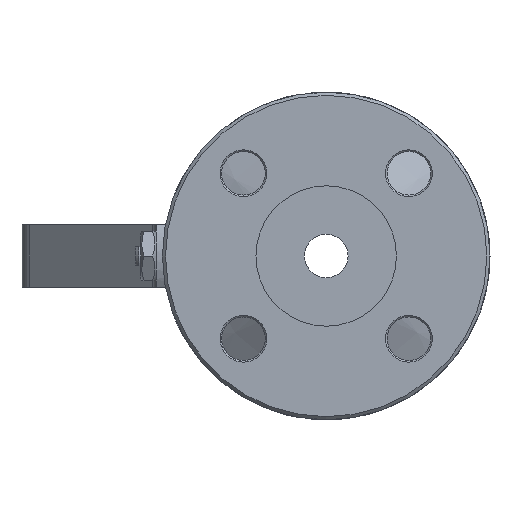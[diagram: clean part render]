
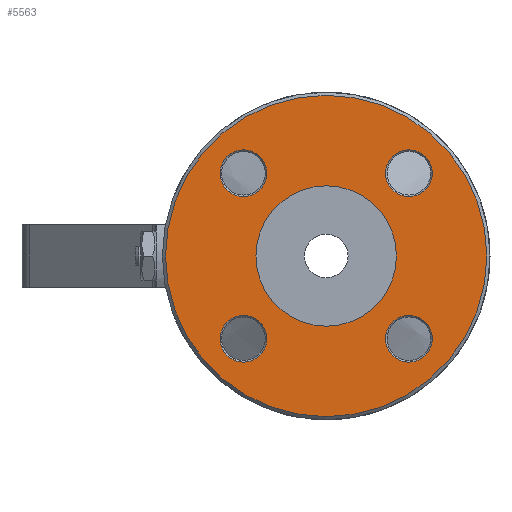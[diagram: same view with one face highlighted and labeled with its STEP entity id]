
A CAD part, left-side view. The second image highlights one B-rep face of the part: STEP entity #5563.
In plain terms, the highlighted planar face has unit normal (-1, 0, 0).
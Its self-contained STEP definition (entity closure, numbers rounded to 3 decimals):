
#5488=CARTESIAN_POINT('',(-98.,34.017,26.517));
#5489=VERTEX_POINT('',#5488);
#5490=CARTESIAN_POINT('',(-98.,26.517,26.517));
#5491=DIRECTION('',(-1.0,0.0,0.0));
#5492=DIRECTION('',(0.0,-1.0,0.0));
#5493=AXIS2_PLACEMENT_3D('',#5490,#5491,#5492);
#5494=CIRCLE('',#5493,7.5);
#5495=EDGE_CURVE('',#5489,#5489,#5494,.T.);
#5500=CARTESIAN_POINT('',(-98.,-37.,0.0));
#5501=DIRECTION('',(-1.0,0.0,0.0));
#5502=DIRECTION('',(0.0,0.0,1.0));
#5503=AXIS2_PLACEMENT_3D('',#5500,#5501,#5502);
#5504=PLANE('',#5503);
#5505=CARTESIAN_POINT('',(-98.,-51.5,0.0));
#5506=VERTEX_POINT('',#5505);
#5507=CARTESIAN_POINT('',(-98.,0.0,0.0));
#5508=DIRECTION('',(-1.0,0.0,0.0));
#5509=DIRECTION('',(0.0,-1.0,0.0));
#5510=AXIS2_PLACEMENT_3D('',#5507,#5508,#5509);
#5511=CIRCLE('',#5510,51.5);
#5512=EDGE_CURVE('',#5506,#5506,#5511,.T.);
#5513=ORIENTED_EDGE('',*,*,#5512,.T.);
#5514=EDGE_LOOP('',(#5513));
#5515=FACE_OUTER_BOUND('',#5514,.T.);
#5516=CARTESIAN_POINT('',(-98.,-26.517,34.017));
#5517=VERTEX_POINT('',#5516);
#5518=CARTESIAN_POINT('',(-98.,-26.517,26.517));
#5519=DIRECTION('',(-1.0,0.0,0.0));
#5520=DIRECTION('',(0.0,0.0,-1.0));
#5521=AXIS2_PLACEMENT_3D('',#5518,#5519,#5520);
#5522=CIRCLE('',#5521,7.5);
#5523=EDGE_CURVE('',#5517,#5517,#5522,.T.);
#5524=ORIENTED_EDGE('',*,*,#5523,.F.);
#5525=EDGE_LOOP('',(#5524));
#5526=FACE_BOUND('',#5525,.T.);
#5527=CARTESIAN_POINT('',(-98.,26.517,-34.017));
#5528=VERTEX_POINT('',#5527);
#5529=CARTESIAN_POINT('',(-98.,26.517,-26.517));
#5530=DIRECTION('',(-1.0,0.0,0.0));
#5531=DIRECTION('',(0.0,0.0,1.0));
#5532=AXIS2_PLACEMENT_3D('',#5529,#5530,#5531);
#5533=CIRCLE('',#5532,7.5);
#5534=EDGE_CURVE('',#5528,#5528,#5533,.T.);
#5535=ORIENTED_EDGE('',*,*,#5534,.F.);
#5536=EDGE_LOOP('',(#5535));
#5537=FACE_BOUND('',#5536,.T.);
#5538=CARTESIAN_POINT('',(-98.,-22.5,0.0));
#5539=VERTEX_POINT('',#5538);
#5540=CARTESIAN_POINT('',(-98.,0.0,0.0));
#5541=DIRECTION('',(-1.0,0.0,0.0));
#5542=DIRECTION('',(0.0,-1.0,0.0));
#5543=AXIS2_PLACEMENT_3D('',#5540,#5541,#5542);
#5544=CIRCLE('',#5543,22.5);
#5545=EDGE_CURVE('',#5539,#5539,#5544,.T.);
#5546=ORIENTED_EDGE('',*,*,#5545,.F.);
#5547=EDGE_LOOP('',(#5546));
#5548=FACE_BOUND('',#5547,.T.);
#5549=CARTESIAN_POINT('',(-98.,-34.017,-26.517));
#5550=VERTEX_POINT('',#5549);
#5551=CARTESIAN_POINT('',(-98.,-26.517,-26.517));
#5552=DIRECTION('',(-1.0,0.0,0.0));
#5553=DIRECTION('',(0.0,1.0,0.0));
#5554=AXIS2_PLACEMENT_3D('',#5551,#5552,#5553);
#5555=CIRCLE('',#5554,7.5);
#5556=EDGE_CURVE('',#5550,#5550,#5555,.T.);
#5557=ORIENTED_EDGE('',*,*,#5556,.F.);
#5558=EDGE_LOOP('',(#5557));
#5559=FACE_BOUND('',#5558,.T.);
#5560=ORIENTED_EDGE('',*,*,#5495,.F.);
#5561=EDGE_LOOP('',(#5560));
#5562=FACE_BOUND('',#5561,.T.);
#5563=ADVANCED_FACE('',(#5515,#5526,#5537,#5548,#5559,#5562),#5504,.T.);
